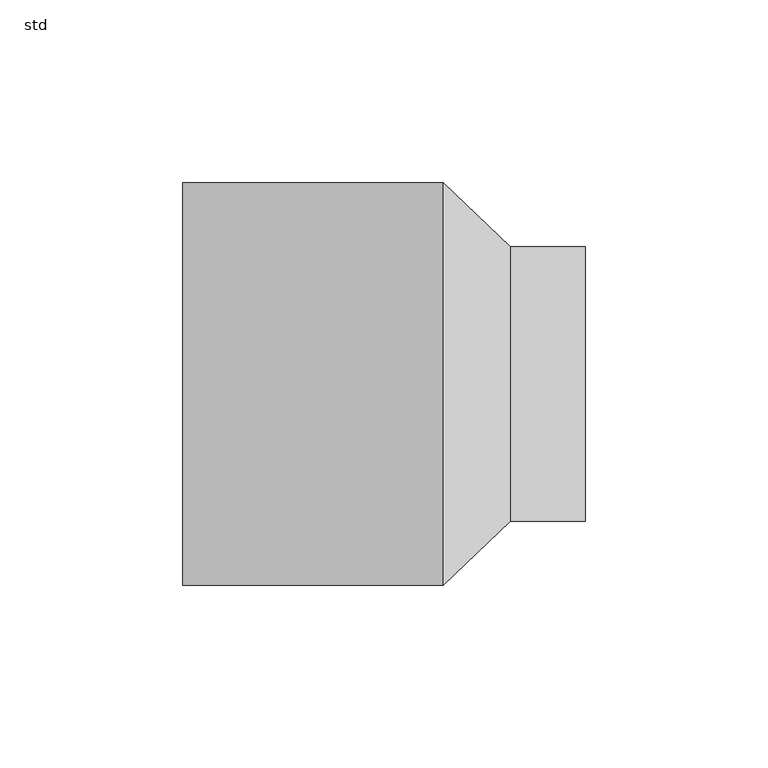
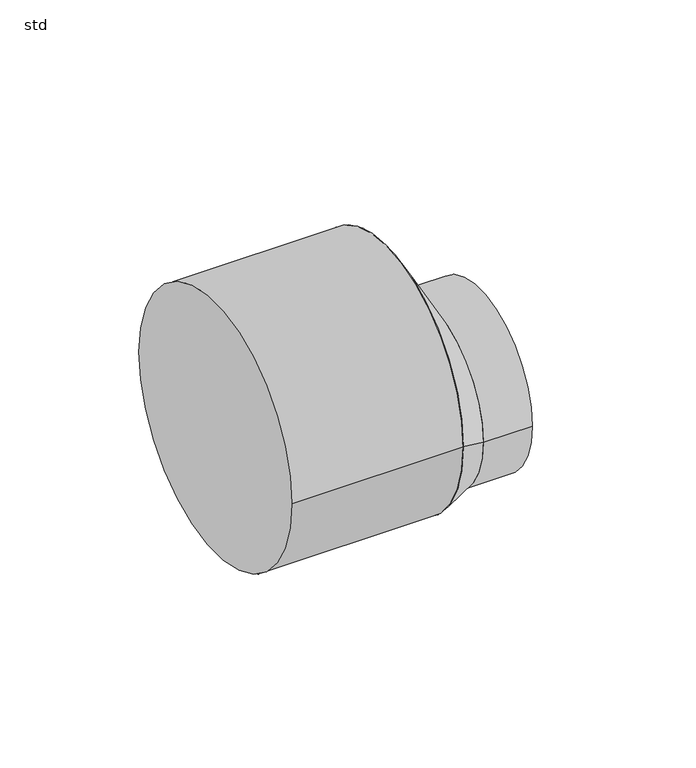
"""IFC4 building model written with IfcOpenShell, lengths in millimetres: pipe fitting geometry, ZZZ_do not use_PIF_ST_UN_ACO pipe increaser coupling_ACO : std."""

from ifc_helpers import new_model, si_unit, point, frame, frame_2d, origin, origin_2d, place, context, project, spatial, circle_curve, trimmed, segment, composite_curve, outline, extrude, source, transform, mapped, element, save
from ifc_brep_helpers import plane_surface, spline_surface, advanced_brep


def std_4d603621(model_context):
    return source(origin(), model_context, "Body", "SolidModel", [
        advanced_brep(
        [(34.5833333, -37.5, -15.0), (34.5833333, 37.5, -15.0), (16.25, -55.0, 0.0), (16.25, 55.0, 0.0)],
        [
            (0, 1, circle_curve(frame((34.5833333, 0.0, -15.0), z_axis=(1.0, 0.0, 0.0), x_axis=(0.0, 1.0, 0.0)), 37.5)),
            (1, 0, circle_curve(frame((34.5833333, 0.0, -15.0), z_axis=(1.0, 0.0, 0.0), x_axis=(0.0, 1.0, 0.0)), 37.5)),
            (2, 3, circle_curve(frame((16.25, 0.0, 0.0), z_axis=(-1.0, 0.0, 0.0), x_axis=(0.0, 1.0, 0.0)), 55.0)),
            (3, 2, circle_curve(frame((16.25, 0.0, 0.0), z_axis=(-1.0, 0.0, 0.0), x_axis=(0.0, 1.0, 0.0)), 55.0)),
            (3, 1),
            (0, 2),
        ],
        [
            plane_surface(frame((34.5833333, 0.0, -15.0), z_axis=(1.0, 0.0, 0.0), x_axis=(0.0, 0.0, -1.0))),
            plane_surface(frame((16.25, 0.0, 0.0), z_axis=(-1.0, 0.0, 0.0), x_axis=(0.0, 0.0, -1.0))),
            spline_surface(2, 1, [[(16.25, -55.0, 0.0), (34.5833333, -37.5, -15.0)], [(16.25, -55.0, -55.0), (34.5833333, -37.5, -52.5)], [(16.25, 0.0, -55.0), (34.5833333, 0.0, -52.5)], [(16.25, 55.0, -55.0), (34.5833333, 37.5, -52.5)], [(16.25, 55.0, 0.0), (34.5833333, 37.5, -15.0)]], [3, 2, 3], [2, 2], [0.0, 1.0, 2.0], [0.0, 1.0], weights=[[1.0, 1.0], [0.7071067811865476, 0.7071067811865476], [1.0, 1.0], [0.7071067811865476, 0.7071067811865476], [1.0, 1.0]]),
            spline_surface(2, 1, [[(16.25, 55.0, 0.0), (34.5833333, 37.5, -15.0)], [(16.25, 55.0, 55.0), (34.5833333, 37.5, 22.5)], [(16.25, 0.0, 55.0), (34.5833333, 0.0, 22.5)], [(16.25, -55.0, 55.0), (34.5833333, -37.5, 22.5)], [(16.25, -55.0, 0.0), (34.5833333, -37.5, -15.0)]], [3, 2, 3], [2, 2], [0.0, 1.0, 2.0], [0.0, 1.0], weights=[[1.0, 1.0], [0.7071067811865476, 0.7071067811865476], [1.0, 1.0], [0.7071067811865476, 0.7071067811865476], [1.0, 1.0]]),
        ],
        [
            (0, [[1, 2]]),
            (1, [[3, 4]]),
            (2, [[-4, 5, -1, 6]]),
            (3, [[-3, -6, -2, -5]]),
        ],
    ),
        extrude(outline(composite_curve([segment(trimmed(circle_curve(frame_2d((0.0, -15.0)), 37.5), [point((37.5, -15.0))], [point((-37.5, -15.0))], False, "CARTESIAN"), True, "CONTINUOUS"), segment(trimmed(circle_curve(frame_2d((0.0, -15.0)), 37.5), [point((-37.5, -15.0))], [point((37.5, -15.0))], False, "CARTESIAN"), True, "CONTINUOUS")], self_intersect=False)), frame((34.5833333, 0.0, 0.0), z_axis=(1.0, 0.0, 0.0), x_axis=(0.0, 1.0, 0.0)), (0.0, 0.0, 1.0), 20.4166667),
        extrude(outline(composite_curve([segment(trimmed(circle_curve(origin_2d(), 55.0), [point((-55.0, 0.0))], [point((55.0, 0.0))], False, "CARTESIAN"), True, "CONTINUOUS"), segment(trimmed(circle_curve(origin_2d(), 55.0), [point((55.0, 0.0))], [point((-55.0, 0.0))], False, "CARTESIAN"), True, "CONTINUOUS")], self_intersect=False)), frame((-55.0, 0.0, 0.0), z_axis=(1.0, 0.0, 0.0), x_axis=(0.0, 1.0, 0.0)), (0.0, 0.0, 1.0), 71.25),
    ])


if __name__ == "__main__":
    model = new_model("IFC4")
    model_context = context("Model", 3, world=origin())
    ifc_project = project(units=[si_unit("LENGTHUNIT", "METRE", prefix="MILLI")], contexts=[model_context])
    site = spatial("IfcSite", under=ifc_project)
    building = spatial("IfcBuilding", under=site)
    placement = place(None, origin())
    std_shape = std_4d603621(model_context)
    element("IfcPipeFitting", 1, ObjectType="ZZZ_do not use_PIF_ST_UN_ACO pipe increaser coupling_ACO : std", at=placement, inside=building, context=model_context, shape_type="MappedRepresentation", body=[
        mapped(std_shape, transform((0.0, 0.0, 0.0), x_axis=(1.0, 0.0, 0.0), y_axis=(0.0, 1.0, 0.0), z_axis=(0.0, 0.0, 1.0))),
    ])
    save(model, "model.ifc")
